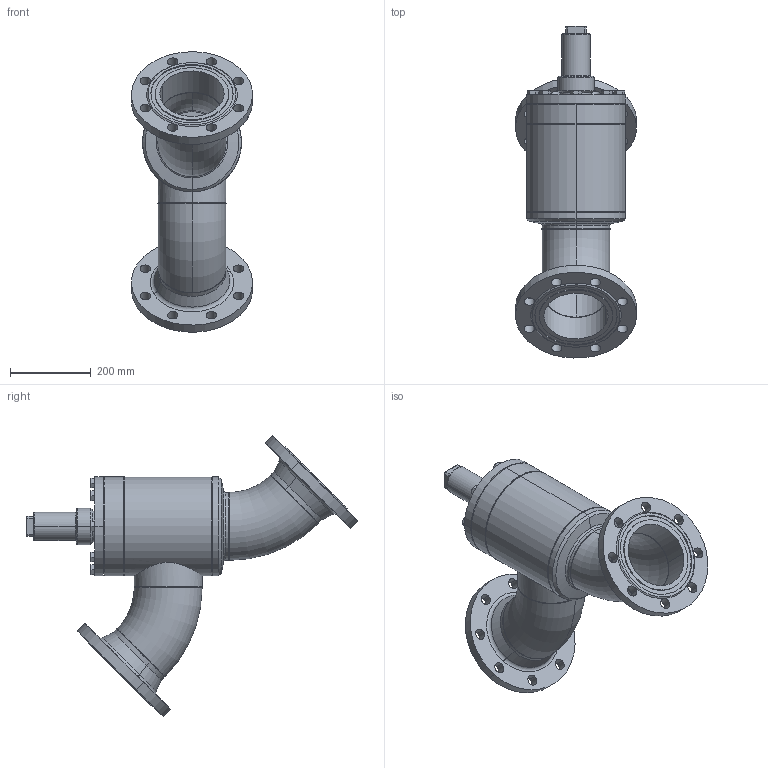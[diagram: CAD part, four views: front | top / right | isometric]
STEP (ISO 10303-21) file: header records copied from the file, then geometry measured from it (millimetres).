
FILE_DESCRIPTION (( 'STEP AP214' ), '1' );
FILE_NAME ('AVB16320D21-DN150_DIN-FL-N_PS40.STEP', '2006-04-27T12:23:38', ( 'Herr Grams' ), ( 'AWP GmbH' ), 'SwSTEP 2.0', 'SolidWorks 2002296', '' );
FILE_SCHEMA (( 'AUTOMOTIVE_DESIGN' ));
Length unit declared in the file: millimetre
Products named in the file (19): AVB16320D21-DN150_DIN-FL-N_PS40; AVB16300E21_Deck+Schr-DN150_Standard; Deckel16300E21-DN150_Standard; Sechskantschraube-DIN933_M16x 45; Gehäuse-kpl16320-DN150_DIN_PS40_Standard; Gehäuse-kpl16300-DN150_R1_Standard; Kopfstück16300-DN150_Standard; Gehäuse16300-DN150_Standard; Rohrstutzen-A16300-DN150_R1_Standard; Boden16300-DN150_Standard; Rohrbogen 45°_Rohrbogen-DN150-45°; bead-DN150-2_Standard; bead-DN150-1_Standard; bead-DN150-3_Standard; bead-DN150-4_Standard; bead-DN150-6_Standard; bead-DN150-7_Standard; Flansch-DIN-Nut_PS40_DIN-Flansch-DN150_PS40-Nut; Kappe16402_DN125-150_Standard
Assembly tree (29 placements, depth 4):
  AVB16320D21-DN150_DIN-FL-N_PS40
    AVB16300E21_Deck+Schr-DN150_Standard
      Sechskantschraube-DIN933_M16x 45  x8
      Deckel16300E21-DN150_Standard
    Kappe16402_DN125-150_Standard
    Gehäuse-kpl16320-DN150_DIN_PS40_Standard
      Flansch-DIN-Nut_PS40_DIN-Flansch-DN150_PS40-Nut  x2
      bead-DN150-7_Standard
      bead-DN150-6_Standard
      Gehäuse-kpl16300-DN150_R1_Standard
        Rohrstutzen-A16300-DN150_R1_Standard
        Rohrbogen 45°_Rohrbogen-DN150-45°  x2
        bead-DN150-4_Standard  x2
        bead-DN150-2_Standard
        Boden16300-DN150_Standard
        bead-DN150-1_Standard  x2
        Kopfstück16300-DN150_Standard
        Gehäuse16300-DN150_Standard
        bead-DN150-3_Standard
Bounding box: 299.71 x 823.01 x 695.17 mm (x, y, z)
Volume: 9557035.1 mm3; surface area: 1789925.1 mm2
Topology: 26 solids, 26 shells, 471 faces, 1038 edges, 630 vertices
Faces by surface type: cylinder 145, plane 136, cone 134, bspline 32, torus 24
Entity records: 11276 total; most frequent: CARTESIAN_POINT 4863, DIRECTION 1194, ORIENTED_EDGE 1068, EDGE_CURVE 534, AXIS2_PLACEMENT_3D 525, VERTEX_POINT 332, EDGE_LOOP 306, CIRCLE 274
